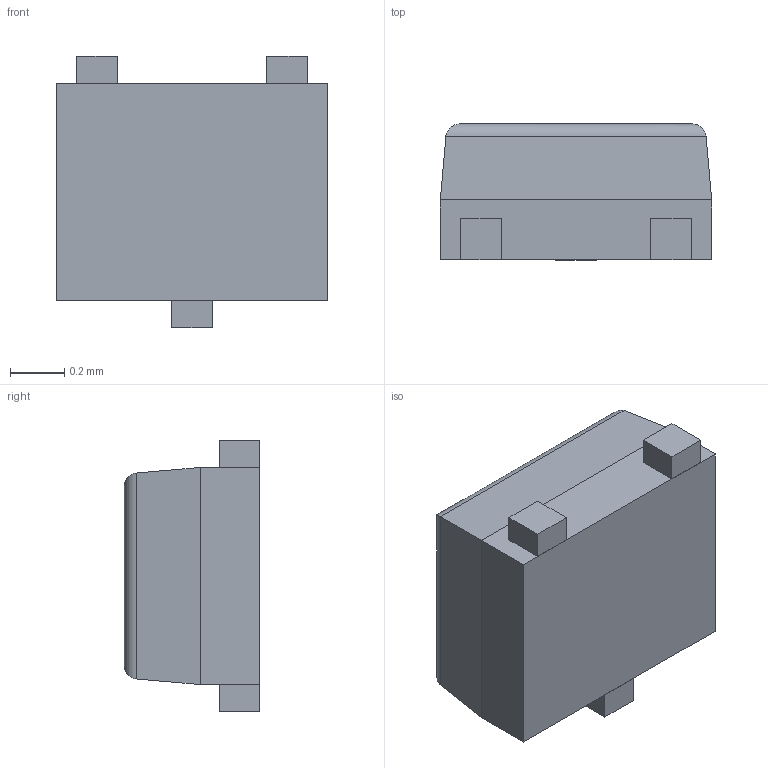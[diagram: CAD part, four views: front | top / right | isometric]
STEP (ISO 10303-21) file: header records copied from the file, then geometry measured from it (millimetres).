
FILE_DESCRIPTION (( 'STEP AP214' ), '1' );
FILE_NAME ( 'TRXSOFL3P35_100X100X50L15X15.STEP', '2021-10-06T06:49:12', ( '' ), ( '' ), '', '©2017 PCB Libraries, Inc.', '' );
FILE_SCHEMA (( 'AUTOMOTIVE_DESIGN' ));
Length unit declared in the file: millimetre
Products named in the file (1): TRXSOFL3P35_100X100X50L15X15
Bounding box: 1 x 0.5 x 1 mm (x, y, z)
Volume: 0.4 mm3; surface area: 3.6 mm2
Topology: 4 solids, 4 shells, 35 faces, 70 edges, 44 vertices
Faces by surface type: plane 29, cylinder 4, torus 2
Entity records: 1061 total; most frequent: CARTESIAN_POINT 162, DIRECTION 144, ORIENTED_EDGE 140, EDGE_CURVE 70, VECTOR 60, LINE 60, VERTEX_POINT 44, AXIS2_PLACEMENT_3D 42
